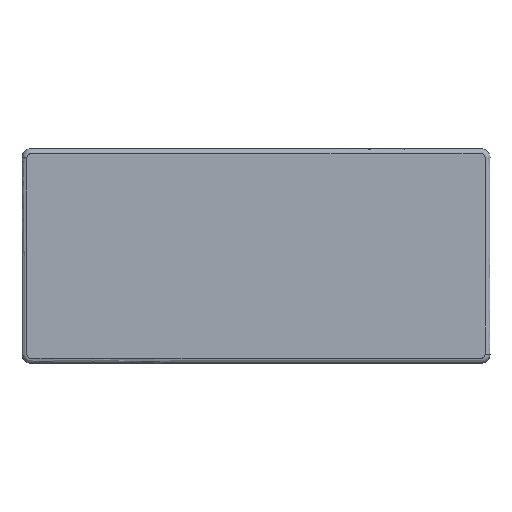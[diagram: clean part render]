
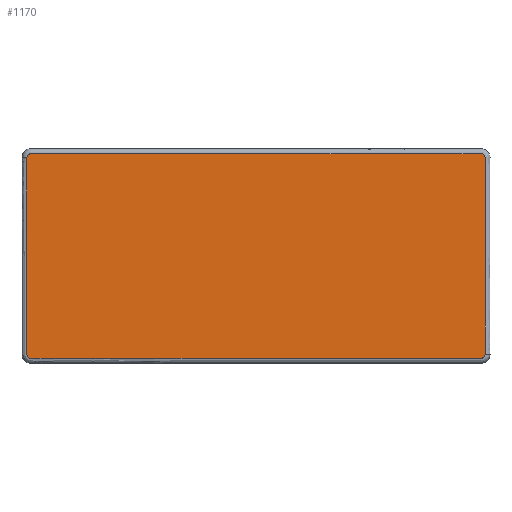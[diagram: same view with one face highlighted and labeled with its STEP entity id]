
A CAD part, top view. The second image highlights one B-rep face of the part: STEP entity #1170.
In plain terms, the highlighted planar face has unit normal (0, 0, 1).
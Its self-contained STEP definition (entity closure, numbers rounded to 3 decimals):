
#1170=ADVANCED_FACE($,(#2617),#19169,.T.);
#2617=FACE_OUTER_BOUND($,#4193,.T.);
#4193=EDGE_LOOP($,(#9755,#9756));
#9755=ORIENTED_EDGE($,*,*,#15387,.F.);
#9756=ORIENTED_EDGE($,*,*,#15058,.F.);
#15058=EDGE_CURVE($,#17711,#17878,#19975,.T.);
#15387=EDGE_CURVE($,#17878,#17711,#20108,.T.);
#17711=VERTEX_POINT($,#44616);
#17878=VERTEX_POINT($,#44783);
#19169=PLANE($,#24248);
#19975=(
BOUNDED_CURVE()
B_SPLINE_CURVE(3,(#34125,#34126,#34127,#34128,#34129,#34130,#34131,#34132,
#34133,#34134,#34135,#34136,#34137,#34138,#34139,#34140,#34141,#34142,#34143),
.UNSPECIFIED.,.F.,.F.)
B_SPLINE_CURVE_WITH_KNOTS((4,1,1,1,3,3,1,1,1,3,4),(0.,0.51,
1.063,1.619,2.199,150.199,150.709,
151.262,151.818,152.398,216.998),.UNSPECIFIED.)
CURVE()
GEOMETRIC_REPRESENTATION_ITEM()
RATIONAL_B_SPLINE_CURVE((1.,1.,1.,1.,1.,1.,1.,1.,1.,1.,1.,1.,1.,1.,1.,1.,
1.,1.,1.))
REPRESENTATION_ITEM($)
);
#20108=(
BOUNDED_CURVE()
B_SPLINE_CURVE(3,(#36538,#36539,#36540,#36541,#36542,#36543,#36544,#36545,
#36546,#36547,#36548,#36549,#36550,#36551,#36552,#36553,#36554,#36555,#36556),
.UNSPECIFIED.,.F.,.F.)
B_SPLINE_CURVE_WITH_KNOTS((4,1,1,1,3,3,1,1,1,3,4),(216.998,217.508,
218.061,218.617,219.197,367.197,367.708,
368.26,368.816,369.396,433.996),.UNSPECIFIED.)
CURVE()
GEOMETRIC_REPRESENTATION_ITEM()
RATIONAL_B_SPLINE_CURVE((1.,1.,1.,1.,1.,1.,1.,1.,1.,1.,1.,1.,1.,1.,1.,1.,
1.,1.,1.))
REPRESENTATION_ITEM($)
);
#24248=AXIS2_PLACEMENT_3D($,#38257,#25564,$);
#25564=DIRECTION($,(0.,0.,1.));
#34125=CARTESIAN_POINT($,(152.4,59.,8.));
#34126=CARTESIAN_POINT($,(152.4,58.83,8.));
#34127=CARTESIAN_POINT($,(152.335,58.475,8.));
#34128=CARTESIAN_POINT($,(152.042,58.01,8.));
#34129=CARTESIAN_POINT($,(151.572,57.68,8.));
#34130=CARTESIAN_POINT($,(151.193,57.6,8.));
#34131=CARTESIAN_POINT($,(151.,57.6,8.));
#34132=CARTESIAN_POINT($,(101.667,57.6,8.));
#34133=CARTESIAN_POINT($,(52.333,57.6,8.));
#34134=CARTESIAN_POINT($,(3.,57.6,8.));
#34135=CARTESIAN_POINT($,(2.83,57.6,8.));
#34136=CARTESIAN_POINT($,(2.475,57.665,8.));
#34137=CARTESIAN_POINT($,(2.01,57.958,8.));
#34138=CARTESIAN_POINT($,(1.68,58.428,8.));
#34139=CARTESIAN_POINT($,(1.6,58.807,8.));
#34140=CARTESIAN_POINT($,(1.6,59.,8.));
#34141=CARTESIAN_POINT($,(1.6,80.533,8.));
#34142=CARTESIAN_POINT($,(1.6,102.067,8.));
#34143=CARTESIAN_POINT($,(1.6,123.6,8.));
#36538=CARTESIAN_POINT($,(1.6,123.6,8.));
#36539=CARTESIAN_POINT($,(1.6,123.77,8.));
#36540=CARTESIAN_POINT($,(1.665,124.125,8.));
#36541=CARTESIAN_POINT($,(1.958,124.59,8.));
#36542=CARTESIAN_POINT($,(2.428,124.92,8.));
#36543=CARTESIAN_POINT($,(2.807,125.,8.));
#36544=CARTESIAN_POINT($,(3.,125.,8.));
#36545=CARTESIAN_POINT($,(52.333,125.,8.));
#36546=CARTESIAN_POINT($,(101.667,125.,8.));
#36547=CARTESIAN_POINT($,(151.,125.,8.));
#36548=CARTESIAN_POINT($,(151.17,125.,8.));
#36549=CARTESIAN_POINT($,(151.525,124.935,8.));
#36550=CARTESIAN_POINT($,(151.99,124.642,8.));
#36551=CARTESIAN_POINT($,(152.32,124.172,8.));
#36552=CARTESIAN_POINT($,(152.4,123.793,8.));
#36553=CARTESIAN_POINT($,(152.4,123.6,8.));
#36554=CARTESIAN_POINT($,(152.4,102.067,8.));
#36555=CARTESIAN_POINT($,(152.4,80.533,8.));
#36556=CARTESIAN_POINT($,(152.4,59.,8.));
#38257=CARTESIAN_POINT($,(0.092,125.674,8.));
#44616=CARTESIAN_POINT($,(152.4,59.,8.));
#44783=CARTESIAN_POINT($,(1.6,123.6,8.));
